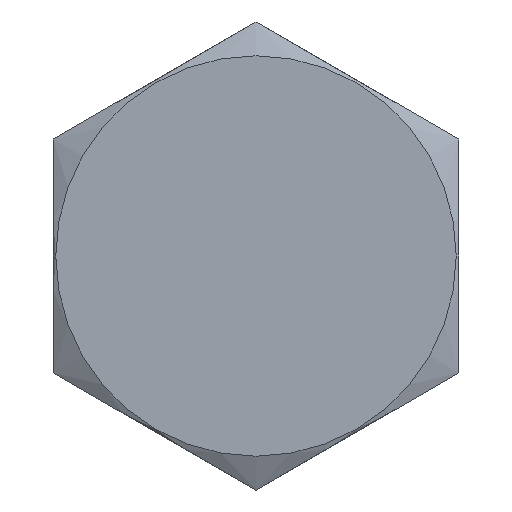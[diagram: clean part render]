
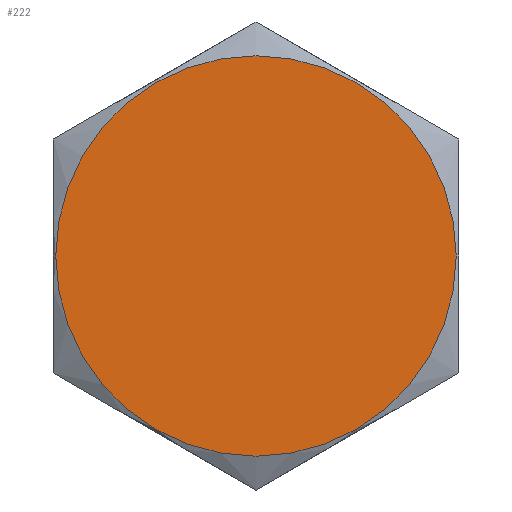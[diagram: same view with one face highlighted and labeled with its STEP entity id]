
A CAD part, left-side view. The second image highlights one B-rep face of the part: STEP entity #222.
In plain terms, the highlighted planar face has unit normal (-1, 0, 0).
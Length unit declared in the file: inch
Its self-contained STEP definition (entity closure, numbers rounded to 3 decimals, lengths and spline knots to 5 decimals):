
#25=PLANE('',#256);
#46=FACE_OUTER_BOUND('',#61,.T.);
#61=EDGE_LOOP('',(#201));
#98=CIRCLE('',#242,0.27788);
#111=VERTEX_POINT('',#345);
#131=EDGE_CURVE('',#111,#111,#98,.T.);
#201=ORIENTED_EDGE('',*,*,#131,.T.);
#222=ADVANCED_FACE('',(#46),#25,.T.);
#242=AXIS2_PLACEMENT_3D('',#347,#270,#271);
#256=AXIS2_PLACEMENT_3D('',#388,#312,#313);
#270=DIRECTION('center_axis',(-1.,0.,0.));
#271=DIRECTION('ref_axis',(0.,0.,1.));
#312=DIRECTION('center_axis',(-1.,0.,0.));
#313=DIRECTION('ref_axis',(0.,0.,1.));
#345=CARTESIAN_POINT('',(0.,0.,-0.27788));
#347=CARTESIAN_POINT('Origin',(0.,0.,0.));
#388=CARTESIAN_POINT('Origin',(0.,0.,0.));
